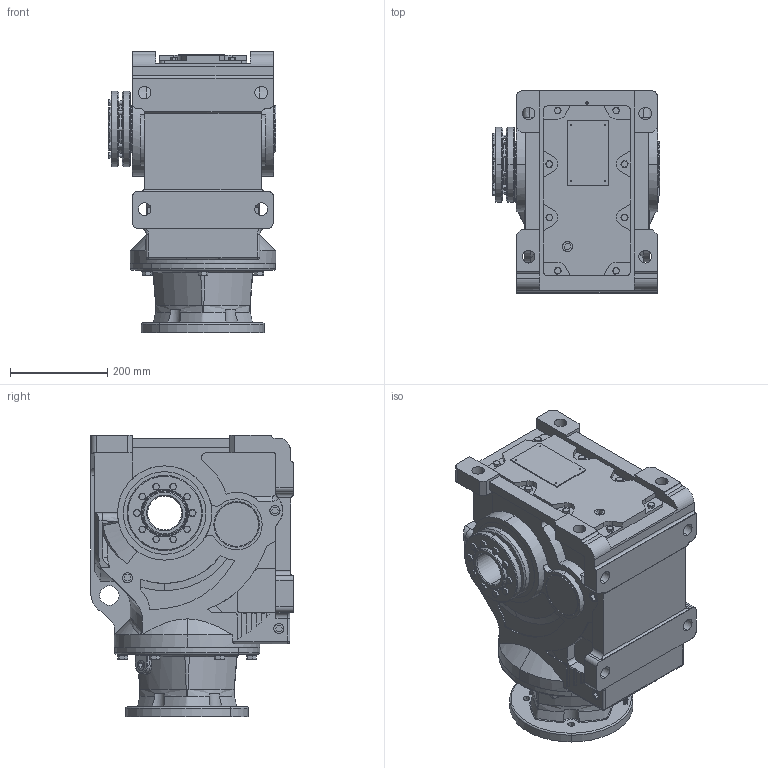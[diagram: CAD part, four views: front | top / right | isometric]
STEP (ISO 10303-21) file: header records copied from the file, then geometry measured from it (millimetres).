
FILE_DESCRIPTION (( 'STEP AP203' ), '1' );
FILE_NAME ('KHN97-254TC-B-POWER LOCK.STEP', '2020-11-25T03:06:13', ( 'Microsoft' ), ( 'Microsoft' ), 'SwSTEP 2.0', 'SolidWorks 2012', '' );
FILE_SCHEMA (( 'CONFIG_CONTROL_DESIGN' ));
Length unit declared in the file: millimetre
Products named in the file (1): KHN97-254TC-B-POWER LOCK
Bounding box: 345 x 417.5 x 579.5 mm (x, y, z)
Volume: 43145045.2 mm3; surface area: 1503704.1 mm2
Topology: 2 solids, 26 shells, 1760 faces, 4428 edges, 2802 vertices
Faces by surface type: plane 751, cylinder 468, cone 354, bspline 142, torus 43, sphere 2
Entity records: 63625 total; most frequent: CARTESIAN_POINT 22037, ORIENTED_EDGE 8740, DIRECTION 8409, EDGE_CURVE 4370, AXIS2_PLACEMENT_3D 3084, VERTEX_POINT 2802, VECTOR 2241, LINE 2241
